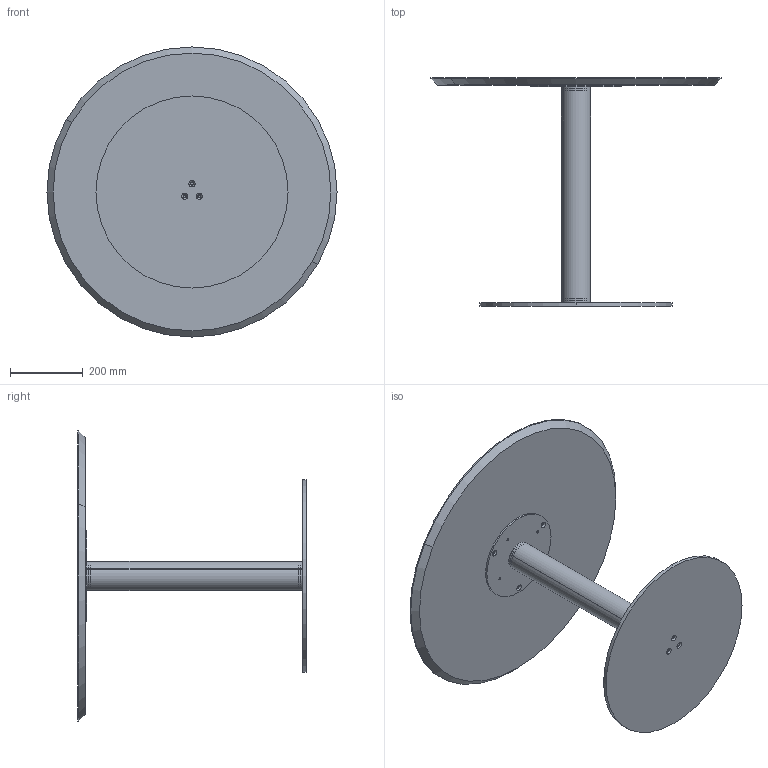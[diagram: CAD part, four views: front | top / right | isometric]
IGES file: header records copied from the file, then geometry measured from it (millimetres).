
Start section: SolidWorks IGES file using analytic representation for surfaces
Global section: file name: Y:\eforma\TECNICO\SOLIDWORKS\E-FORMA\5-TAVOLINI BISTRO\CILINDRO BISTRÒ H63\02 parts\CB25W.IGS; native system: SolidWorks 2022; preprocessor: SolidWorks 2022; author: eforma.tech; date: 240808.104238; units: millimetre
Bounding box: 800 x 630 x 800 mm (x, y, z)
Volume: 12472254.1 mm3; surface area: 1904654.8 mm2
Topology: 6 solids, 6 shells, 110 faces, 258 edges, 156 vertices
Faces by surface type: revolution 98, plane 12
